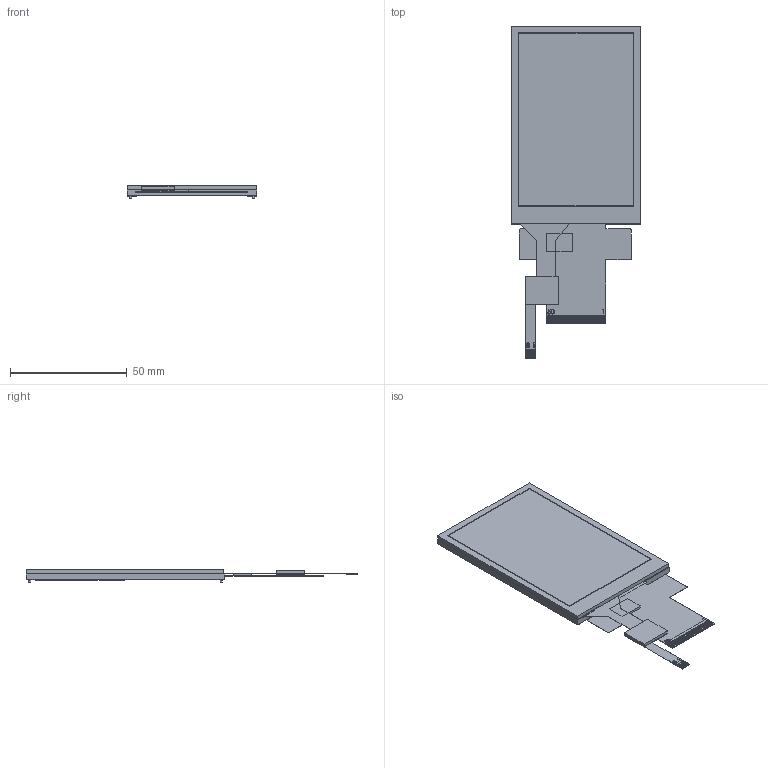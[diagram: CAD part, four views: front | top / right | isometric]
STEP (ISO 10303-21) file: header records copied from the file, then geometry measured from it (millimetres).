
FILE_DESCRIPTION (( 'STEP AP214' ), '1' );
FILE_NAME ('CFAF320480C7-035TC.STEP', '2023-06-30T16:52:14', ( '' ), ( '' ), 'SwSTEP 2.0', 'SolidWorks 2021', '' );
FILE_SCHEMA (( 'AUTOMOTIVE_DESIGN' ));
Length unit declared in the file: millimetre
Products named in the file (1): CFAF320480C7-035TC
Bounding box: 55.5 x 141.91 x 5.25 mm (x, y, z)
Volume: 20521 mm3; surface area: 24880.3 mm2
Topology: 60 solids, 60 shells, 496 faces, 1102 edges, 740 vertices
Faces by surface type: plane 447, bspline 34, cylinder 15
Entity records: 19823 total; most frequent: CARTESIAN_POINT 4693, ORIENTED_EDGE 2204, DIRECTION 1990, EDGE_CURVE 1102, LINE 1004, VECTOR 1004, VERTEX_POINT 740, EDGE_LOOP 512
